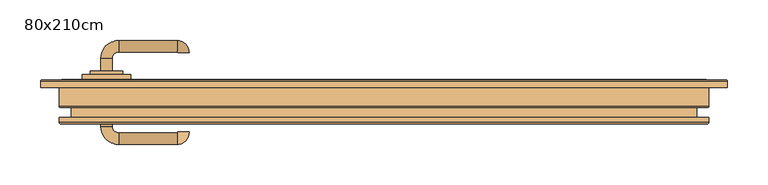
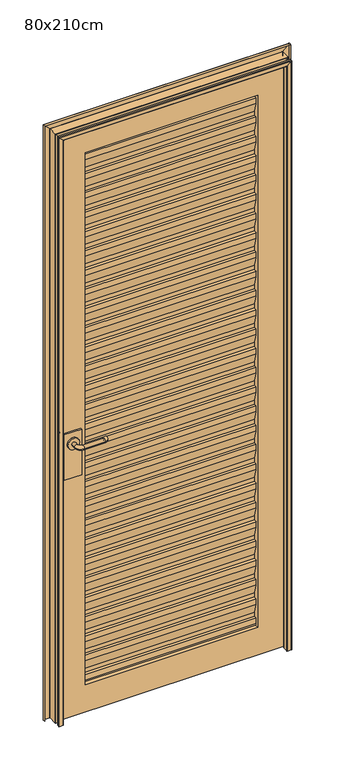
"""IFC4 building model written with IfcOpenShell, lengths in millimetres: door geometry, FamiliaBIM Porta de abrir Veneziana Metalica MCMV 2023 : 80x210cm."""

from ifc_helpers import new_model, si_unit, point, frame, frame_2d, origin, place, context, project, spatial, polyline, circle_curve, ellipse_curve, trimmed, segment, composite_curve, outline, extrude, source, transform, mapped, element, save
from ifc_brep_helpers import plane_surface, cylinder_surface, revolved_surface, advanced_brep


def door_80x210cm_6cad2534(model_context):
    return source(origin(), model_context, "Body", "SolidModel", [
        extrude(outline(polyline([(88.9, 180.8599451), (98.9, 180.8599451), (98.9, 195.8599451), (88.9, 230.8599451), (88.9, 250.8599451), (98.9, 250.8599451), (98.9, 265.8599451), (88.9, 300.8599451), (88.9, 320.8599451), (98.9, 320.8599451), (98.9, 335.8599451), (88.9, 370.8599451), (88.9, 390.8599451), (98.9, 390.8599451), (98.9, 405.8599451), (88.9, 440.8599451), (88.9, 460.8599451), (98.9, 460.8599451), (98.9, 475.8599451), (88.9, 510.8599451), (88.9, 530.8599451), (98.9, 530.8599451), (98.9, 545.8599451), (88.9, 580.8599451), (88.9, 600.8599451), (98.9, 600.8599451), (98.9, 615.8599451), (88.9, 650.8599451), (88.9, 670.8599451), (98.9, 670.8599451), (98.9, 685.8599451), (88.9, 720.8599451), (88.9, 740.8599451), (98.9, 740.8599451), (98.9, 755.8599451), (88.9, 790.8599451), (88.9, 810.8599451), (98.9, 810.8599451), (98.9, 825.8599451), (88.9, 860.8599451), (88.9, 880.8599451), (98.9, 880.8599451), (98.9, 895.8599451), (88.9, 930.8599451), (88.9, 950.8599451), (98.9, 950.8599451), (98.9, 965.8599451), (88.9, 1000.8599451), (88.9, 1020.8599451), (98.9, 1020.8599451), (98.9, 1035.8599451), (88.9, 1070.8599451), (88.9, 1090.8599451), (98.9, 1090.8599451), (98.9, 1105.8599451), (88.9, 1140.8599451), (88.9, 1160.8599451), (98.9, 1160.8599451), (98.9, 1175.8599451), (88.9, 1210.8599451), (88.9, 1230.8599451), (98.9, 1230.8599451), (98.9, 1245.8599451), (88.9, 1280.8599451), (88.9, 1300.8599451), (98.9, 1300.8599451), (98.9, 1315.8599451), (88.9, 1350.8599451), (88.9, 1370.8599451), (98.9, 1370.8599451), (98.9, 1385.8599451), (88.9, 1420.8599451), (88.9, 1440.8599451), (98.9, 1440.8599451), (98.9, 1455.8599451), (88.9, 1490.8599451), (88.9, 1510.8599451), (98.9, 1510.8599451), (98.9, 1525.8599451), (88.9, 1560.8599451), (88.9, 1580.8599451), (98.9, 1580.8599451), (98.9, 1595.8599451), (88.9, 1630.8599451), (88.9, 1650.8599451), (98.9, 1650.8599451), (98.9, 1665.8599451), (88.9, 1700.8599451), (88.9, 1720.8599451), (98.9, 1720.8599451), (98.9, 1735.8599451), (88.9, 1770.8599451), (88.9, 1790.8599451), (98.9, 1790.8599451), (98.9, 1805.8599451), (88.9, 1840.8599451), (88.9, 1860.8599451), (98.9, 1860.8599451), (98.9, 1875.8599451), (88.9, 1910.8599451), (88.9, 1930.8599451), (98.9, 1930.8599451), (98.9, 1945.8599451), (88.9, 1980.8599451), (88.9, 2000.8599451), (98.9, 2000.8599451), (98.9, 2015.8599451), (88.9, 2050.8599451), (88.9, 2070.8599451), (98.9, 2070.8599451), (98.9, 2085.8599451), (99.9, 2086.0), (99.9, 2069.8599451), (89.9, 2069.8599451), (89.9, 2051.0), (99.9, 2016.0), (99.9, 1999.8599451), (89.9, 1999.8599451), (89.9, 1981.0), (99.9, 1946.0), (99.9, 1929.8599451), (89.9, 1929.8599451), (89.9, 1911.0), (99.9, 1876.0), (99.9, 1859.8599451), (89.9, 1859.8599451), (89.9, 1841.0), (99.9, 1806.0), (99.9, 1789.8599451), (89.9, 1789.8599451), (89.9, 1771.0), (99.9, 1736.0), (99.9, 1719.8599451), (89.9, 1719.8599451), (89.9, 1701.0), (99.9, 1666.0), (99.9, 1649.8599451), (89.9, 1649.8599451), (89.9, 1631.0), (99.9, 1596.0), (99.9, 1579.8599451), (89.9, 1579.8599451), (89.9, 1561.0), (99.9, 1526.0), (99.9, 1509.8599451), (89.9, 1509.8599451), (89.9, 1491.0), (99.9, 1456.0), (99.9, 1439.8599451), (89.9, 1439.8599451), (89.9, 1421.0), (99.9, 1386.0), (99.9, 1369.8599451), (89.9, 1369.8599451), (89.9, 1351.0), (99.9, 1316.0), (99.9, 1299.8599451), (89.9, 1299.8599451), (89.9, 1281.0), (99.9, 1246.0), (99.9, 1229.8599451), (89.9, 1229.8599451), (89.9, 1211.0), (99.9, 1176.0), (99.9, 1159.8599451), (89.9, 1159.8599451), (89.9, 1141.0), (99.9, 1106.0), (99.9, 1089.8599451), (89.9, 1089.8599451), (89.9, 1071.0), (99.9, 1036.0), (99.9, 1019.8599451), (89.9, 1019.8599451), (89.9, 1001.0), (99.9, 966.0), (99.9, 949.8599451), (89.9, 949.8599451), (89.9, 931.0), (99.9, 896.0), (99.9, 879.8599451), (89.9, 879.8599451), (89.9, 861.0), (99.9, 826.0), (99.9, 809.8599451), (89.9, 809.8599451), (89.9, 791.0), (99.9, 756.0), (99.9, 739.8599451), (89.9, 739.8599451), (89.9, 721.0), (99.9, 686.0), (99.9, 669.8599451), (89.9, 669.8599451), (89.9, 651.0), (99.9, 616.0), (99.9, 599.8599451), (89.9, 599.8599451), (89.9, 581.0), (99.9, 546.0), (99.9, 529.8599451), (89.9, 529.8599451), (89.9, 511.0), (99.9, 476.0), (99.9, 459.8599451), (89.9, 459.8599451), (89.9, 441.0), (99.9, 406.0), (99.9, 389.8599451), (89.9, 389.8599451), (89.9, 371.0), (99.9, 336.0), (99.9, 319.8599451), (89.9, 319.8599451), (89.9, 301.0), (99.9, 266.0), (99.9, 249.8599451), (89.9, 249.8599451), (89.9, 231.0), (99.9, 196.0), (99.9, 179.8599451), (89.9, 179.8599451), (89.9, 161.0), (92.1971586, 152.9599451), (91.1571429, 152.9599451), (88.9, 160.8599451), (88.9, 180.8599451)])), frame((-397.0, 0.0, 0.0), z_axis=(1.0, 0.0, 0.0), x_axis=(0.0, 1.0, 0.0)), (0.0, 0.0, 1.0), 594.0),
        extrude(outline(composite_curve([segment(trimmed(circle_curve(frame_2d((1050.0, -442.0)), 20.0), [point((1050.0, -462.0))], [point((1050.0, -422.0))], False, "CARTESIAN"), True, "CONTINUOUS"), segment(trimmed(circle_curve(frame_2d((1050.0, -442.0)), 20.0), [point((1050.0, -422.0))], [point((1050.0, -462.0))], False, "CARTESIAN"), True, "CONTINUOUS")], self_intersect=False)), frame((0.0, 67.4070105, 0.0), z_axis=(0.0, 1.0, 0.0), x_axis=(0.0, 0.0, 1.0)), (0.0, 0.0, 1.0), 4.5929895),
        advanced_brep(
        [(-435.0, 67.4070105, 1050.0), (-449.0, 67.4070105, 1050.0), (-449.0, 52.0, 1050.0), (-435.0, 52.0, 1050.0), (-427.0, 30.0, 1050.0), (-427.0, 44.0, 1050.0), (-355.0, 30.0, 1050.0), (-355.0, 44.0, 1050.0), (-354.0, 45.0, 1050.0), (-340.0, 45.0, 1050.0)],
        [
            (0, 1, circle_curve(frame((-442.0, 67.4070105, 1050.0), z_axis=(0.0, 1.0, 0.0), x_axis=(-1.0, 0.0, 0.0)), 7.0)),
            (1, 0, circle_curve(frame((-442.0, 67.4070105, 1050.0), z_axis=(0.0, 1.0, 0.0), x_axis=(-1.0, 0.0, 0.0)), 7.0)),
            (1, 2),
            (2, 3, circle_curve(frame((-442.0, 52.0, 1050.0), z_axis=(0.0, 1.0, 0.0), x_axis=(-1.0, 0.0, 0.0)), 7.0)),
            (3, 0),
            (3, 2, circle_curve(frame((-442.0, 52.0, 1050.0), z_axis=(0.0, 1.0, 0.0), x_axis=(-1.0, 0.0, 0.0)), 7.0)),
            (4, 5, circle_curve(frame((-427.0, 37.0, 1050.0), z_axis=(-1.0, 0.0, 0.0), x_axis=(0.0, -1.0, 0.0)), 7.0)),
            (5, 3, circle_curve(frame((-427.0, 52.0, 1050.0), z_axis=(0.0, 0.0, -1.0), x_axis=(-1.0, 0.0, 0.0)), 8.0)),
            (2, 4, circle_curve(frame((-427.0, 52.0, 1050.0), z_axis=(0.0, 0.0, 1.0), x_axis=(-1.0, 0.0, 0.0)), 22.0)),
            (5, 4, circle_curve(frame((-427.0, 37.0, 1050.0), z_axis=(-1.0, 0.0, 0.0), x_axis=(0.0, -1.0, 0.0)), 7.0)),
            (4, 6),
            (6, 7, circle_curve(frame((-355.0, 37.0, 1050.0), z_axis=(-1.0, 0.0, 0.0), x_axis=(0.0, -1.0, 0.0)), 7.0)),
            (7, 5),
            (7, 6, circle_curve(frame((-355.0, 37.0, 1050.0), z_axis=(-1.0, 0.0, 0.0), x_axis=(0.0, -1.0, 0.0)), 7.0)),
            (8, 9, circle_curve(frame((-347.0, 45.0, 1050.0), z_axis=(0.0, 1.0, 0.0), x_axis=(1.0, 0.0, 0.0)), 7.0)),
            (9, 8, circle_curve(frame((-347.0, 45.0, 1050.0), z_axis=(0.0, 1.0, 0.0), x_axis=(1.0, 0.0, 0.0)), 7.0)),
            (8, 7, circle_curve(frame((-355.0, 45.0, 1050.0), z_axis=(0.0, 0.0, -1.0), x_axis=(0.0, -1.0, 0.0)), 1.0)),
            (6, 9, circle_curve(frame((-355.0, 45.0, 1050.0), z_axis=(0.0, 0.0, 1.0), x_axis=(0.0, -1.0, 0.0)), 15.0)),
        ],
        [
            plane_surface(frame((-442.0, 67.4070105, 1050.0), z_axis=(0.0, 1.0, 0.0), x_axis=(0.0, 0.0, 1.0))),
            cylinder_surface(frame((-442.0, 67.4070105, 1050.0), z_axis=(0.0, 1.0, 0.0), x_axis=(-1.0, 0.0, 0.0)), 7.0),
            revolved_surface(trimmed(ellipse_curve(frame((-442.0, 52.0, 1050.0), z_axis=(0.0, -1.0, 0.0), x_axis=(-1.0, 0.0, 0.0)), 7.0, 7.0), [point((-435.0, 52.0, 1050.0))], [point((-449.0, 52.0, 1050.0))], True, "CARTESIAN"), (-427.0, 52.0, 1050.0), (0.0, 0.0, -1.0)),
            revolved_surface(trimmed(ellipse_curve(frame((-442.0, 52.0, 1050.0), z_axis=(0.0, -1.0, 0.0), x_axis=(-1.0, 0.0, 0.0)), 7.0, 7.0), [point((-449.0, 52.0, 1050.0))], [point((-435.0, 52.0, 1050.0))], True, "CARTESIAN"), (-427.0, 52.0, 1050.0), (0.0, 0.0, -1.0)),
            cylinder_surface(frame((-427.0, 37.0, 1050.0), z_axis=(-1.0, 0.0, 0.0), x_axis=(0.0, -1.0, 0.0)), 7.0),
            plane_surface(frame((-347.0, 45.0, 1050.0), z_axis=(0.0, 1.0, 0.0), x_axis=(0.0, 0.0, 1.0))),
            revolved_surface(trimmed(ellipse_curve(frame((-355.0, 37.0, 1050.0), z_axis=(1.0, 0.0, 0.0), x_axis=(0.0, -1.0, 0.0)), 7.0, 7.0), [point((-355.0, 44.0, 1050.0))], [point((-355.0, 30.0, 1050.0))], True, "CARTESIAN"), (-355.0, 45.0, 1050.0), (0.0, 0.0, -1.0)),
            revolved_surface(trimmed(ellipse_curve(frame((-355.0, 37.0, 1050.0), z_axis=(1.0, 0.0, 0.0), x_axis=(0.0, -1.0, 0.0)), 7.0, 7.0), [point((-355.0, 30.0, 1050.0))], [point((-355.0, 44.0, 1050.0))], True, "CARTESIAN"), (-355.0, 45.0, 1050.0), (0.0, 0.0, -1.0)),
        ],
        [
            (0, [[1, 2]]),
            (1, [[3, 4, 5, -2]]),
            (1, [[-5, 6, -3, -1]]),
            (2, [[7, 8, -4, 9]]),
            (3, [[10, -9, -6, -8]]),
            (4, [[11, 12, 13, -7]]),
            (4, [[-13, 14, -11, -10]]),
            (5, [[15, 16]]),
            (6, [[-15, 17, -12, 18]]),
            (7, [[-16, -18, -14, -17]]),
        ],
    ),
        extrude(outline(polyline([(-412.0, 78.0), (-412.0, 72.0), (-472.0, 72.0), (-472.0, 78.0), (-412.0, 78.0)])), frame((0.0, 0.0, 925.0), z_axis=(0.0, 0.0, 1.0), x_axis=(1.0, 0.0, 0.0)), (0.0, 0.0, 1.0), 165.0),
        extrude(outline(composite_curve([segment(trimmed(circle_curve(frame_2d((1050.0, -442.0)), 20.0), [point((1050.0, -462.0))], [point((1050.0, -422.0))], False, "CARTESIAN"), True, "CONTINUOUS"), segment(trimmed(circle_curve(frame_2d((1050.0, -442.0)), 20.0), [point((1050.0, -422.0))], [point((1050.0, -462.0))], False, "CARTESIAN"), True, "CONTINUOUS")], self_intersect=False)), frame((0.0, 116.0, 0.0), z_axis=(0.0, 1.0, 0.0), x_axis=(0.0, 0.0, 1.0)), (0.0, 0.0, 1.0), 4.5929895),
        advanced_brep(
        [(-435.0, 120.5929895, 1050.0), (-449.0, 120.5929895, 1050.0), (-435.0, 136.0, 1050.0), (-449.0, 136.0, 1050.0), (-427.0, 158.0, 1050.0), (-427.0, 144.0, 1050.0), (-355.0, 144.0, 1050.0), (-355.0, 158.0, 1050.0), (-354.0, 143.0, 1050.0), (-340.0, 143.0, 1050.0)],
        [
            (0, 1, circle_curve(frame((-442.0, 120.5929895, 1050.0), z_axis=(0.0, -1.0, 0.0), x_axis=(-1.0, 0.0, 0.0)), 7.0)),
            (1, 0, circle_curve(frame((-442.0, 120.5929895, 1050.0), z_axis=(0.0, -1.0, 0.0), x_axis=(-1.0, 0.0, 0.0)), 7.0)),
            (0, 2),
            (2, 3, circle_curve(frame((-442.0, 136.0, 1050.0), z_axis=(0.0, -1.0, 0.0), x_axis=(-1.0, 0.0, 0.0)), 7.0)),
            (3, 1),
            (3, 2, circle_curve(frame((-442.0, 136.0, 1050.0), z_axis=(0.0, -1.0, 0.0), x_axis=(-1.0, 0.0, 0.0)), 7.0)),
            (4, 3, circle_curve(frame((-427.0, 136.0, 1050.0), z_axis=(0.0, 0.0, 1.0), x_axis=(-1.0, 0.0, 0.0)), 22.0)),
            (2, 5, circle_curve(frame((-427.0, 136.0, 1050.0), z_axis=(0.0, 0.0, -1.0), x_axis=(-1.0, 0.0, 0.0)), 8.0)),
            (5, 4, circle_curve(frame((-427.0, 151.0, 1050.0), z_axis=(-1.0, 0.0, 0.0), x_axis=(0.0, 1.0, 0.0)), 7.0)),
            (4, 5, circle_curve(frame((-427.0, 151.0, 1050.0), z_axis=(-1.0, 0.0, 0.0), x_axis=(0.0, 1.0, 0.0)), 7.0)),
            (5, 6),
            (6, 7, circle_curve(frame((-355.0, 151.0, 1050.0), z_axis=(-1.0, 0.0, 0.0), x_axis=(0.0, 1.0, 0.0)), 7.0)),
            (7, 4),
            (7, 6, circle_curve(frame((-355.0, 151.0, 1050.0), z_axis=(-1.0, 0.0, 0.0), x_axis=(0.0, 1.0, 0.0)), 7.0)),
            (8, 9, circle_curve(frame((-347.0, 143.0, 1050.0), z_axis=(0.0, -1.0, 0.0), x_axis=(1.0, 0.0, 0.0)), 7.0)),
            (9, 8, circle_curve(frame((-347.0, 143.0, 1050.0), z_axis=(0.0, -1.0, 0.0), x_axis=(1.0, 0.0, 0.0)), 7.0)),
            (9, 7, circle_curve(frame((-355.0, 143.0, 1050.0), z_axis=(0.0, 0.0, 1.0), x_axis=(0.0, 1.0, 0.0)), 15.0)),
            (6, 8, circle_curve(frame((-355.0, 143.0, 1050.0), z_axis=(0.0, 0.0, -1.0), x_axis=(0.0, 1.0, 0.0)), 1.0)),
        ],
        [
            plane_surface(frame((-442.0, 120.5929895, 1050.0), z_axis=(0.0, -1.0, 0.0), x_axis=(0.0, 0.0, 1.0))),
            cylinder_surface(frame((-442.0, 120.5929895, 1050.0), z_axis=(0.0, -1.0, 0.0), x_axis=(-1.0, 0.0, 0.0)), 7.0),
            revolved_surface(trimmed(ellipse_curve(frame((-442.0, 136.0, 1050.0), z_axis=(0.0, -1.0, 0.0), x_axis=(-1.0, 0.0, 0.0)), 7.0, 7.0), [point((-435.0, 136.0, 1050.0))], [point((-449.0, 136.0, 1050.0))], True, "CARTESIAN"), (-427.0, 136.0, 1050.0), (0.0, 0.0, -1.0)),
            revolved_surface(trimmed(ellipse_curve(frame((-442.0, 136.0, 1050.0), z_axis=(0.0, -1.0, 0.0), x_axis=(-1.0, 0.0, 0.0)), 7.0, 7.0), [point((-449.0, 136.0, 1050.0))], [point((-435.0, 136.0, 1050.0))], True, "CARTESIAN"), (-427.0, 136.0, 1050.0), (0.0, 0.0, -1.0)),
            cylinder_surface(frame((-427.0, 151.0, 1050.0), z_axis=(-1.0, 0.0, 0.0), x_axis=(0.0, 1.0, 0.0)), 7.0),
            plane_surface(frame((-347.0, 143.0, 1050.0), z_axis=(0.0, -1.0, 0.0), x_axis=(0.0, 0.0, 1.0))),
            revolved_surface(trimmed(ellipse_curve(frame((-355.0, 151.0, 1050.0), z_axis=(-1.0, 0.0, 0.0), x_axis=(0.0, 1.0, 0.0)), 7.0, 7.0), [point((-355.0, 144.0, 1050.0))], [point((-355.0, 158.0, 1050.0))], True, "CARTESIAN"), (-355.0, 143.0, 1050.0), (0.0, 0.0, -1.0)),
            revolved_surface(trimmed(ellipse_curve(frame((-355.0, 151.0, 1050.0), z_axis=(-1.0, 0.0, 0.0), x_axis=(0.0, 1.0, 0.0)), 7.0, 7.0), [point((-355.0, 158.0, 1050.0))], [point((-355.0, 144.0, 1050.0))], True, "CARTESIAN"), (-355.0, 143.0, 1050.0), (0.0, 0.0, -1.0)),
        ],
        [
            (0, [[1, 2]]),
            (1, [[-1, 3, 4, 5]]),
            (1, [[-2, -5, 6, -3]]),
            (2, [[7, -4, 8, 9]]),
            (3, [[-8, -6, -7, 10]]),
            (4, [[-9, 11, 12, 13]]),
            (4, [[-10, -13, 14, -11]]),
            (5, [[15, 16]]),
            (6, [[17, -12, 18, -16]]),
            (7, [[-18, -14, -17, -15]]),
        ],
    ),
        extrude(outline(polyline([(-412.0, 110.0), (-472.0, 110.0), (-472.0, 116.0), (-412.0, 116.0), (-412.0, 110.0)])), frame((0.0, 0.0, 925.0), z_axis=(0.0, 0.0, 1.0), x_axis=(1.0, 0.0, 0.0)), (0.0, 0.0, 1.0), 165.0),
        extrude(outline(polyline([(2186.0, -497.0), (53.0, -497.0), (53.0, 297.0), (2186.0, 297.0), (2186.0, -497.0)]), holes=[polyline([(2086.0, -397.0), (2086.0, 197.0), (153.0, 197.0), (153.0, -397.0), (2086.0, -397.0)])]), frame((0.0, 78.0, 0.0), z_axis=(0.0, 1.0, 0.0), x_axis=(0.0, 0.0, 1.0)), (0.0, 0.0, 1.0), 32.0),
        advanced_brep(
        [(-485.5, 55.0, 50.0), (-498.5, 55.0, 50.0), (-500.0, 56.5, 50.0), (-500.0, 63.0, 50.0), (-499.0, 63.0, 50.0), (-499.0, 56.5, 50.0), (-498.5, 56.0, 50.0), (-485.5, 56.0, 50.0), (-485.0, 56.5, 50.0), (-485.0, 74.5, 50.0), (-485.5, 75.0, 50.0), (-498.55, 75.0, 50.0), (-500.05, 76.5, 50.0), (-500.05, 107.5, 50.0), (-500.55, 108.0, 50.0), (-521.55, 108.0, 50.0), (-522.05, 107.5, 50.0), (-522.05, 100.0, 50.0), (-523.05, 100.0, 50.0), (-523.05, 107.5, 50.0), (-521.55, 109.0, 50.0), (-500.55, 109.0, 50.0), (-499.05, 107.5, 50.0), (-499.05, 76.5, 50.0), (-498.55, 76.0, 50.0), (-485.5, 76.0, 50.0), (-484.0, 74.5, 50.0), (-484.0, 56.5, 50.0), (-485.5, 55.0, 2175.5), (-498.5, 55.0, 2188.5), (-500.0, 56.5, 2190.0), (-500.0, 63.0, 2190.0), (-499.0, 63.0, 2189.0), (-499.0, 56.5, 2189.0), (-498.5, 56.0, 2188.5), (-485.5, 56.0, 2175.5), (-485.0, 56.5, 2175.0), (-485.0, 74.5, 2175.0), (-485.5, 75.0, 2175.5), (-498.55, 75.0, 2188.55), (-500.05, 76.5, 2190.05), (-500.05, 107.5, 2190.05), (-500.55, 108.0, 2190.55), (-521.55, 108.0, 2211.55), (-522.05, 107.5, 2212.05), (-522.05, 100.0, 2212.05), (-523.05, 100.0, 2213.05), (-523.05, 107.5, 2213.05), (-521.55, 109.0, 2211.55), (-500.55, 109.0, 2190.55), (-499.05, 107.5, 2189.05), (-499.05, 76.5, 2189.05), (-498.55, 76.0, 2188.55), (-485.5, 76.0, 2175.5), (-484.0, 74.5, 2174.0), (-484.0, 56.5, 2174.0), (285.5, 55.0, 50.0), (284.0, 56.5, 50.0), (284.0, 74.5, 50.0), (285.5, 76.0, 50.0), (298.55, 76.0, 50.0), (299.05, 76.5, 50.0), (299.05, 107.5, 50.0), (300.55, 109.0, 50.0), (321.55, 109.0, 50.0), (323.05, 107.5, 50.0), (323.05, 100.0, 50.0), (322.05, 100.0, 50.0), (322.05, 107.5, 50.0), (321.55, 108.0, 50.0), (300.55, 108.0, 50.0), (300.05, 107.5, 50.0), (300.05, 76.5, 50.0), (298.55, 75.0, 50.0), (285.5, 75.0, 50.0), (285.0, 74.5, 50.0), (285.0, 56.5, 50.0), (285.5, 56.0, 50.0), (298.5, 56.0, 50.0), (299.0, 56.5, 50.0), (299.0, 63.0, 50.0), (300.0, 63.0, 50.0), (300.0, 56.5, 50.0), (298.5, 55.0, 50.0), (285.5, 55.0, 2175.5), (284.0, 56.5, 2174.0), (284.0, 74.5, 2174.0), (285.5, 76.0, 2175.5), (298.55, 76.0, 2188.55), (299.05, 76.5, 2189.05), (299.05, 107.5, 2189.05), (300.55, 109.0, 2190.55), (321.55, 109.0, 2211.55), (323.05, 107.5, 2213.05), (323.05, 100.0, 2213.05), (322.05, 100.0, 2212.05), (322.05, 107.5, 2212.05), (321.55, 108.0, 2211.55), (300.55, 108.0, 2190.55), (300.05, 107.5, 2190.05), (300.05, 76.5, 2190.05), (298.55, 75.0, 2188.55), (285.5, 75.0, 2175.5), (285.0, 74.5, 2175.0), (285.0, 56.5, 2175.0), (285.5, 56.0, 2175.5), (298.5, 56.0, 2188.5), (299.0, 56.5, 2189.0), (299.0, 63.0, 2189.0), (300.0, 63.0, 2190.0), (300.0, 56.5, 2190.0), (298.5, 55.0, 2188.5)],
        [
            (0, 1),
            (1, 2, circle_curve(frame((-498.5, 56.5, 50.0), z_axis=(0.0, 0.0, -1.0), x_axis=(1.0, 0.0, 0.0)), 1.5)),
            (2, 3),
            (3, 4),
            (4, 5),
            (5, 6, circle_curve(frame((-498.5, 56.5, 50.0), z_axis=(0.0, 0.0, 1.0), x_axis=(1.0, 0.0, 0.0)), 0.5)),
            (6, 7),
            (7, 8, circle_curve(frame((-485.5, 56.5, 50.0), z_axis=(0.0, 0.0, 1.0), x_axis=(1.0, 0.0, 0.0)), 0.5)),
            (8, 9),
            (9, 10, circle_curve(frame((-485.5, 74.5, 50.0), z_axis=(0.0, 0.0, 1.0), x_axis=(1.0, 0.0, 0.0)), 0.5)),
            (10, 11),
            (11, 12, circle_curve(frame((-498.55, 76.5, 50.0), z_axis=(0.0, 0.0, -1.0), x_axis=(1.0, 0.0, 0.0)), 1.5)),
            (12, 13),
            (13, 14, circle_curve(frame((-500.55, 107.5, 50.0), z_axis=(0.0, 0.0, 1.0), x_axis=(1.0, 0.0, 0.0)), 0.5)),
            (14, 15),
            (15, 16, circle_curve(frame((-521.55, 107.5, 50.0), z_axis=(0.0, 0.0, 1.0), x_axis=(1.0, 0.0, 0.0)), 0.5)),
            (16, 17),
            (17, 18),
            (18, 19),
            (19, 20, circle_curve(frame((-521.55, 107.5, 50.0), z_axis=(0.0, 0.0, -1.0), x_axis=(1.0, 0.0, 0.0)), 1.5)),
            (20, 21),
            (21, 22, circle_curve(frame((-500.55, 107.5, 50.0), z_axis=(0.0, 0.0, -1.0), x_axis=(1.0, 0.0, 0.0)), 1.5)),
            (22, 23),
            (23, 24, circle_curve(frame((-498.55, 76.5, 50.0), z_axis=(0.0, 0.0, 1.0), x_axis=(1.0, 0.0, 0.0)), 0.5)),
            (24, 25),
            (25, 26, circle_curve(frame((-485.5, 74.5, 50.0), z_axis=(0.0, 0.0, -1.0), x_axis=(1.0, 0.0, 0.0)), 1.5)),
            (26, 27),
            (27, 0, circle_curve(frame((-485.5, 56.5, 50.0), z_axis=(0.0, 0.0, -1.0), x_axis=(1.0, 0.0, 0.0)), 1.5)),
            (0, 28),
            (28, 29),
            (29, 1),
            (29, 30, ellipse_curve(frame((-498.5, 56.5, 2188.5), z_axis=(-0.7071067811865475, 0.0, -0.7071067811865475), x_axis=(0.7071067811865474, 0.0, -0.7071067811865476)), 2.1213203, 1.5)),
            (30, 2),
            (30, 31),
            (31, 3),
            (31, 32),
            (32, 4),
            (32, 33),
            (33, 5),
            (33, 34, ellipse_curve(frame((-498.5, 56.5, 2188.5), z_axis=(0.7071067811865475, 0.0, 0.7071067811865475), x_axis=(-0.7071067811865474, 0.0, 0.7071067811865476)), 0.7071068, 0.5)),
            (34, 6),
            (34, 35),
            (35, 7),
            (35, 36, ellipse_curve(frame((-485.5, 56.5, 2175.5), z_axis=(0.7071067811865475, 0.0, 0.7071067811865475), x_axis=(-0.7071067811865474, 0.0, 0.7071067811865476)), 0.7071068, 0.5)),
            (36, 8),
            (36, 37),
            (37, 9),
            (37, 38, ellipse_curve(frame((-485.5, 74.5, 2175.5), z_axis=(0.7071067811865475, 0.0, 0.7071067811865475), x_axis=(-0.7071067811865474, 0.0, 0.7071067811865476)), 0.7071068, 0.5)),
            (38, 10),
            (38, 39),
            (39, 11),
            (39, 40, ellipse_curve(frame((-498.55, 76.5, 2188.55), z_axis=(-0.7071067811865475, 0.0, -0.7071067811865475), x_axis=(0.7071067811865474, 0.0, -0.7071067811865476)), 2.1213203, 1.5)),
            (40, 12),
            (40, 41),
            (41, 13),
            (41, 42, ellipse_curve(frame((-500.55, 107.5, 2190.55), z_axis=(0.7071067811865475, 0.0, 0.7071067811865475), x_axis=(-0.7071067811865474, 0.0, 0.7071067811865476)), 0.7071068, 0.5)),
            (42, 14),
            (42, 43),
            (43, 15),
            (43, 44, ellipse_curve(frame((-521.55, 107.5, 2211.55), z_axis=(0.7071067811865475, 0.0, 0.7071067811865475), x_axis=(-0.7071067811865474, 0.0, 0.7071067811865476)), 0.7071068, 0.5)),
            (44, 16),
            (44, 45),
            (45, 17),
            (45, 46),
            (46, 18),
            (46, 47),
            (47, 19),
            (47, 48, ellipse_curve(frame((-521.55, 107.5, 2211.55), z_axis=(-0.7071067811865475, 0.0, -0.7071067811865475), x_axis=(0.7071067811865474, 0.0, -0.7071067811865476)), 2.1213203, 1.5)),
            (48, 20),
            (48, 49),
            (49, 21),
            (49, 50, ellipse_curve(frame((-500.55, 107.5, 2190.55), z_axis=(-0.7071067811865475, 0.0, -0.7071067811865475), x_axis=(0.7071067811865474, 0.0, -0.7071067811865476)), 2.1213203, 1.5)),
            (50, 22),
            (50, 51),
            (51, 23),
            (51, 52, ellipse_curve(frame((-498.55, 76.5, 2188.55), z_axis=(0.7071067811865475, 0.0, 0.7071067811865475), x_axis=(-0.7071067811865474, 0.0, 0.7071067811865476)), 0.7071068, 0.5)),
            (52, 24),
            (52, 53),
            (53, 25),
            (53, 54, ellipse_curve(frame((-485.5, 74.5, 2175.5), z_axis=(-0.7071067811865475, 0.0, -0.7071067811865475), x_axis=(0.7071067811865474, 0.0, -0.7071067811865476)), 2.1213203, 1.5)),
            (54, 26),
            (54, 55),
            (55, 27),
            (55, 28, ellipse_curve(frame((-485.5, 56.5, 2175.5), z_axis=(-0.7071067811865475, 0.0, -0.7071067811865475), x_axis=(0.7071067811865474, 0.0, -0.7071067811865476)), 2.1213203, 1.5)),
            (56, 57, circle_curve(frame((285.5, 56.5, 50.0), z_axis=(0.0, 0.0, -1.0), x_axis=(-1.0, 0.0, 0.0)), 1.5)),
            (57, 58),
            (58, 59, circle_curve(frame((285.5, 74.5, 50.0), z_axis=(0.0, 0.0, -1.0), x_axis=(-1.0, 0.0, 0.0)), 1.5)),
            (59, 60),
            (60, 61, circle_curve(frame((298.55, 76.5, 50.0), z_axis=(0.0, 0.0, 1.0), x_axis=(-1.0, 0.0, 0.0)), 0.5)),
            (61, 62),
            (62, 63, circle_curve(frame((300.55, 107.5, 50.0), z_axis=(0.0, 0.0, -1.0), x_axis=(-1.0, 0.0, 0.0)), 1.5)),
            (63, 64),
            (64, 65, circle_curve(frame((321.55, 107.5, 50.0), z_axis=(0.0, 0.0, -1.0), x_axis=(-1.0, 0.0, 0.0)), 1.5)),
            (65, 66),
            (66, 67),
            (67, 68),
            (68, 69, circle_curve(frame((321.55, 107.5, 50.0), z_axis=(0.0, 0.0, 1.0), x_axis=(-1.0, 0.0, 0.0)), 0.5)),
            (69, 70),
            (70, 71, circle_curve(frame((300.55, 107.5, 50.0), z_axis=(0.0, 0.0, 1.0), x_axis=(-1.0, 0.0, 0.0)), 0.5)),
            (71, 72),
            (72, 73, circle_curve(frame((298.55, 76.5, 50.0), z_axis=(0.0, 0.0, -1.0), x_axis=(-1.0, 0.0, 0.0)), 1.5)),
            (73, 74),
            (74, 75, circle_curve(frame((285.5, 74.5, 50.0), z_axis=(0.0, 0.0, 1.0), x_axis=(-1.0, 0.0, 0.0)), 0.5)),
            (75, 76),
            (76, 77, circle_curve(frame((285.5, 56.5, 50.0), z_axis=(0.0, 0.0, 1.0), x_axis=(-1.0, 0.0, 0.0)), 0.5)),
            (77, 78),
            (78, 79, circle_curve(frame((298.5, 56.5, 50.0), z_axis=(0.0, 0.0, 1.0), x_axis=(-1.0, 0.0, 0.0)), 0.5)),
            (79, 80),
            (80, 81),
            (81, 82),
            (82, 83, circle_curve(frame((298.5, 56.5, 50.0), z_axis=(0.0, 0.0, -1.0), x_axis=(-1.0, 0.0, 0.0)), 1.5)),
            (83, 56),
            (84, 85, ellipse_curve(frame((285.5, 56.5, 2175.5), z_axis=(0.7071067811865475, 0.0, -0.7071067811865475), x_axis=(0.7071067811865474, 0.0, 0.7071067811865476)), 2.1213203, 1.5)),
            (85, 57),
            (56, 84),
            (85, 86),
            (86, 58),
            (86, 87, ellipse_curve(frame((285.5, 74.5, 2175.5), z_axis=(0.7071067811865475, 0.0, -0.7071067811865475), x_axis=(0.7071067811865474, 0.0, 0.7071067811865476)), 2.1213203, 1.5)),
            (87, 59),
            (87, 88),
            (88, 60),
            (88, 89, ellipse_curve(frame((298.55, 76.5, 2188.55), z_axis=(-0.7071067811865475, 0.0, 0.7071067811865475), x_axis=(-0.7071067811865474, 0.0, -0.7071067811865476)), 0.7071068, 0.5)),
            (89, 61),
            (89, 90),
            (90, 62),
            (90, 91, ellipse_curve(frame((300.55, 107.5, 2190.55), z_axis=(0.7071067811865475, 0.0, -0.7071067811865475), x_axis=(0.7071067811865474, 0.0, 0.7071067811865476)), 2.1213203, 1.5)),
            (91, 63),
            (91, 92),
            (92, 64),
            (92, 93, ellipse_curve(frame((321.55, 107.5, 2211.55), z_axis=(0.7071067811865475, 0.0, -0.7071067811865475), x_axis=(0.7071067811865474, 0.0, 0.7071067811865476)), 2.1213203, 1.5)),
            (93, 65),
            (93, 94),
            (94, 66),
            (94, 95),
            (95, 67),
            (95, 96),
            (96, 68),
            (96, 97, ellipse_curve(frame((321.55, 107.5, 2211.55), z_axis=(-0.7071067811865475, 0.0, 0.7071067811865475), x_axis=(-0.7071067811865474, 0.0, -0.7071067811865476)), 0.7071068, 0.5)),
            (97, 69),
            (97, 98),
            (98, 70),
            (98, 99, ellipse_curve(frame((300.55, 107.5, 2190.55), z_axis=(-0.7071067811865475, 0.0, 0.7071067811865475), x_axis=(-0.7071067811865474, 0.0, -0.7071067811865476)), 0.7071068, 0.5)),
            (99, 71),
            (99, 100),
            (100, 72),
            (100, 101, ellipse_curve(frame((298.55, 76.5, 2188.55), z_axis=(0.7071067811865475, 0.0, -0.7071067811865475), x_axis=(0.7071067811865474, 0.0, 0.7071067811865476)), 2.1213203, 1.5)),
            (101, 73),
            (101, 102),
            (102, 74),
            (102, 103, ellipse_curve(frame((285.5, 74.5, 2175.5), z_axis=(-0.7071067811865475, 0.0, 0.7071067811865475), x_axis=(-0.7071067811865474, 0.0, -0.7071067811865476)), 0.7071068, 0.5)),
            (103, 75),
            (103, 104),
            (104, 76),
            (104, 105, ellipse_curve(frame((285.5, 56.5, 2175.5), z_axis=(-0.7071067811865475, 0.0, 0.7071067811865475), x_axis=(-0.7071067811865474, 0.0, -0.7071067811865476)), 0.7071068, 0.5)),
            (105, 77),
            (105, 106),
            (106, 78),
            (106, 107, ellipse_curve(frame((298.5, 56.5, 2188.5), z_axis=(-0.7071067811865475, 0.0, 0.7071067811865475), x_axis=(-0.7071067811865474, 0.0, -0.7071067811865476)), 0.7071068, 0.5)),
            (107, 79),
            (107, 108),
            (108, 80),
            (108, 109),
            (109, 81),
            (109, 110),
            (110, 82),
            (110, 111, ellipse_curve(frame((298.5, 56.5, 2188.5), z_axis=(0.7071067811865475, 0.0, -0.7071067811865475), x_axis=(0.7071067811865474, 0.0, 0.7071067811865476)), 2.1213203, 1.5)),
            (111, 83),
            (111, 84),
            (28, 84),
            (111, 29),
            (110, 30),
            (109, 31),
            (108, 32),
            (107, 33),
            (106, 34),
            (105, 35),
            (104, 36),
            (103, 37),
            (102, 38),
            (101, 39),
            (100, 40),
            (99, 41),
            (98, 42),
            (97, 43),
            (96, 44),
            (95, 45),
            (94, 46),
            (93, 47),
            (92, 48),
            (91, 49),
            (90, 50),
            (89, 51),
            (88, 52),
            (87, 53),
            (86, 54),
            (85, 55),
        ],
        [
            plane_surface(frame((-500.0, 52.7215694, 50.0), z_axis=(0.0, 0.0, -1.0), x_axis=(1.0, 0.0, 0.0))),
            plane_surface(frame((-485.5, 55.0, 50.0), z_axis=(0.0, -1.0, 0.0), x_axis=(0.0, 0.0, 1.0))),
            cylinder_surface(frame((-498.5, 56.5, 50.0), z_axis=(0.0, 0.0, -1.0), x_axis=(1.0, 0.0, 0.0)), 1.5),
            plane_surface(frame((-500.0, 56.5, 50.0), z_axis=(-1.0, 0.0, 0.0), x_axis=(0.0, 0.0, 1.0))),
            plane_surface(frame((-500.0, 63.0, 50.0), z_axis=(0.0, 1.0, 0.0), x_axis=(0.0, 0.0, 1.0))),
            plane_surface(frame((-499.0, 63.0, 50.0), z_axis=(1.0, 0.0, 0.0), x_axis=(0.0, 0.0, 1.0))),
            revolved_surface(polyline([(-498.0, 56.5, 2189.000000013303), (-498.0, 56.5, 50.0)]), (-498.5, 56.5, 50.0), (0.0, 0.0, 1.0)),
            plane_surface(frame((-498.5, 56.0, 50.0), z_axis=(0.0, 1.0, 0.0), x_axis=(0.0, 0.0, 1.0))),
            revolved_surface(polyline([(-485.0, 56.5, 2176.000000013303), (-485.0, 56.5, 50.0)]), (-485.5, 56.5, 50.0), (0.0, 0.0, 1.0)),
            plane_surface(frame((-485.0, 56.5, 50.0), z_axis=(-1.0, 0.0, 0.0), x_axis=(0.0, 0.0, 1.0))),
            revolved_surface(polyline([(-485.0, 74.5, 2176.000000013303), (-485.0, 74.5, 50.0)]), (-485.5, 74.5, 50.0), (0.0, 0.0, 1.0)),
            plane_surface(frame((-485.5, 75.0, 50.0), z_axis=(0.0, -1.0, 0.0), x_axis=(0.0, 0.0, 1.0))),
            cylinder_surface(frame((-498.55, 76.5, 50.0), z_axis=(0.0, 0.0, -1.0), x_axis=(1.0, 0.0, 0.0)), 1.5),
            plane_surface(frame((-500.05, 76.5, 50.0), z_axis=(-1.0, 0.0, 0.0), x_axis=(0.0, 0.0, 1.0))),
            revolved_surface(polyline([(-500.05, 107.5, 2191.0500000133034), (-500.05, 107.5, 50.0)]), (-500.55, 107.5, 50.0), (0.0, 0.0, 1.0)),
            plane_surface(frame((-500.55, 108.0, 50.0), z_axis=(0.0, -1.0, 0.0), x_axis=(0.0, 0.0, 1.0))),
            revolved_surface(polyline([(-521.05, 107.5, 2212.0500000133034), (-521.05, 107.5, 50.0)]), (-521.55, 107.5, 50.0), (0.0, 0.0, 1.0)),
            plane_surface(frame((-522.05, 107.5, 50.0), z_axis=(1.0, 0.0, 0.0), x_axis=(0.0, 0.0, 1.0))),
            plane_surface(frame((-522.05, 100.0, 50.0), z_axis=(0.0, -1.0, 0.0), x_axis=(0.0, 0.0, 1.0))),
            plane_surface(frame((-523.05, 100.0, 50.0), z_axis=(-1.0, 0.0, 0.0), x_axis=(0.0, 0.0, 1.0))),
            cylinder_surface(frame((-521.55, 107.5, 50.0), z_axis=(0.0, 0.0, -1.0), x_axis=(1.0, 0.0, 0.0)), 1.5),
            plane_surface(frame((-521.55, 109.0, 50.0), z_axis=(0.0, 1.0, 0.0), x_axis=(0.0, 0.0, 1.0))),
            cylinder_surface(frame((-500.55, 107.5, 50.0), z_axis=(0.0, 0.0, -1.0), x_axis=(1.0, 0.0, 0.0)), 1.5),
            plane_surface(frame((-499.05, 107.5, 50.0), z_axis=(1.0, 0.0, 0.0), x_axis=(0.0, 0.0, 1.0))),
            revolved_surface(polyline([(-498.05, 76.5, 2189.0500000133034), (-498.05, 76.5, 50.0)]), (-498.55, 76.5, 50.0), (0.0, 0.0, 1.0)),
            plane_surface(frame((-498.55, 76.0, 50.0), z_axis=(0.0, 1.0, 0.0), x_axis=(0.0, 0.0, 1.0))),
            cylinder_surface(frame((-485.5, 74.5, 50.0), z_axis=(0.0, 0.0, -1.0), x_axis=(1.0, 0.0, 0.0)), 1.5),
            plane_surface(frame((-484.0, 74.5, 50.0), z_axis=(1.0, 0.0, 0.0), x_axis=(0.0, 0.0, 1.0))),
            cylinder_surface(frame((-485.5, 56.5, 50.0), z_axis=(0.0, 0.0, -1.0), x_axis=(1.0, 0.0, 0.0)), 1.5),
            plane_surface(frame((300.0, 52.7215694, 50.0), z_axis=(0.0, 0.0, -1.0), x_axis=(-1.0, 0.0, 0.0))),
            cylinder_surface(frame((285.5, 56.5, 2190.0), z_axis=(0.0, 0.0, 1.0), x_axis=(-1.0, 0.0, 0.0)), 1.5),
            plane_surface(frame((284.0, 74.5, 2174.0), z_axis=(-1.0, 0.0, 0.0), x_axis=(0.0, 0.0, -1.0))),
            cylinder_surface(frame((285.5, 74.5, 2190.0), z_axis=(0.0, 0.0, 1.0), x_axis=(-1.0, 0.0, 0.0)), 1.5),
            plane_surface(frame((298.55, 76.0, 2188.55), z_axis=(0.0, 1.0, 0.0), x_axis=(0.0, 0.0, -1.0))),
            revolved_surface(polyline([(298.05, 76.5, 50.0), (298.05, 76.5, 2189.0500000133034)]), (298.55, 76.5, 2190.0), (0.0, 0.0, -1.0)),
            plane_surface(frame((299.05, 107.5, 2189.05), z_axis=(-1.0, 0.0, 0.0), x_axis=(0.0, 0.0, -1.0))),
            cylinder_surface(frame((300.55, 107.5, 2190.0), z_axis=(0.0, 0.0, 1.0), x_axis=(-1.0, 0.0, 0.0)), 1.5),
            plane_surface(frame((321.55, 109.0, 2211.55), z_axis=(0.0, 1.0, 0.0), x_axis=(0.0, 0.0, -1.0))),
            cylinder_surface(frame((321.55, 107.5, 2190.0), z_axis=(0.0, 0.0, 1.0), x_axis=(-1.0, 0.0, 0.0)), 1.5),
            plane_surface(frame((323.05, 100.0, 2213.05), z_axis=(1.0, 0.0, 0.0), x_axis=(0.0, 0.0, -1.0))),
            plane_surface(frame((322.05, 100.0, 2212.05), z_axis=(0.0, -1.0, 0.0), x_axis=(0.0, 0.0, -1.0))),
            plane_surface(frame((322.05, 107.5, 2212.05), z_axis=(-1.0, 0.0, 0.0), x_axis=(0.0, 0.0, -1.0))),
            revolved_surface(polyline([(321.05, 107.5, 50.0), (321.05, 107.5, 2212.0500000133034)]), (321.55, 107.5, 2190.0), (0.0, 0.0, -1.0)),
            plane_surface(frame((300.55, 108.0, 2190.55), z_axis=(0.0, -1.0, 0.0), x_axis=(0.0, 0.0, -1.0))),
            revolved_surface(polyline([(300.05, 107.5, 50.0), (300.05, 107.5, 2191.0500000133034)]), (300.55, 107.5, 2190.0), (0.0, 0.0, -1.0)),
            plane_surface(frame((300.05, 76.5, 2190.05), z_axis=(1.0, 0.0, 0.0), x_axis=(0.0, 0.0, -1.0))),
            cylinder_surface(frame((298.55, 76.5, 2190.0), z_axis=(0.0, 0.0, 1.0), x_axis=(-1.0, 0.0, 0.0)), 1.5),
            plane_surface(frame((285.5, 75.0, 2175.5), z_axis=(0.0, -1.0, 0.0), x_axis=(0.0, 0.0, -1.0))),
            revolved_surface(polyline([(285.0, 74.5, 50.0), (285.0, 74.5, 2176.000000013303)]), (285.5, 74.5, 2190.0), (0.0, 0.0, -1.0)),
            plane_surface(frame((285.0, 56.5, 2175.0), z_axis=(1.0, 0.0, 0.0), x_axis=(0.0, 0.0, -1.0))),
            revolved_surface(polyline([(285.0, 56.5, 50.0), (285.0, 56.5, 2176.000000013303)]), (285.5, 56.5, 2190.0), (0.0, 0.0, -1.0)),
            plane_surface(frame((298.5, 56.0, 2188.5), z_axis=(0.0, 1.0, 0.0), x_axis=(0.0, 0.0, -1.0))),
            revolved_surface(polyline([(298.0, 56.5, 50.0), (298.0, 56.5, 2189.000000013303)]), (298.5, 56.5, 2190.0), (0.0, 0.0, -1.0)),
            plane_surface(frame((299.0, 63.0, 2189.0), z_axis=(-1.0, 0.0, 0.0), x_axis=(0.0, 0.0, -1.0))),
            plane_surface(frame((300.0, 63.0, 2190.0), z_axis=(0.0, 1.0, 0.0), x_axis=(0.0, 0.0, -1.0))),
            plane_surface(frame((300.0, 56.5, 2190.0), z_axis=(1.0, 0.0, 0.0), x_axis=(0.0, 0.0, -1.0))),
            cylinder_surface(frame((298.5, 56.5, 2190.0), z_axis=(0.0, 0.0, 1.0), x_axis=(-1.0, 0.0, 0.0)), 1.5),
            plane_surface(frame((285.5, 55.0, 2175.5), z_axis=(0.0, -1.0, 0.0), x_axis=(0.0, 0.0, -1.0))),
            plane_surface(frame((-485.5, 55.0, 2175.5), z_axis=(0.0, -1.0, 0.0), x_axis=(1.0, 0.0, 0.0))),
            cylinder_surface(frame((-500.0, 56.5, 2188.5), z_axis=(-1.0, 0.0, 0.0), x_axis=(0.0, 0.0, -1.0)), 1.5),
            plane_surface(frame((-500.0, 56.5, 2190.0), z_axis=(0.0, 0.0, 1.0), x_axis=(1.0, 0.0, 0.0))),
            plane_surface(frame((-500.0, 63.0, 2190.0), z_axis=(0.0, 1.0, 0.0), x_axis=(1.0, 0.0, 0.0))),
            plane_surface(frame((-499.0, 63.0, 2189.0), z_axis=(0.0, 0.0, -1.0), x_axis=(1.0, 0.0, 0.0))),
            revolved_surface(polyline([(299.00000001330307, 56.5, 2188.0), (-499.0000000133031, 56.5, 2188.0)]), (-500.0, 56.5, 2188.5), (1.0, 0.0, 0.0)),
            plane_surface(frame((-498.5, 56.0, 2188.5), z_axis=(0.0, 1.0, 0.0), x_axis=(1.0, 0.0, 0.0))),
            revolved_surface(polyline([(286.00000001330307, 56.5, 2175.0), (-486.0000000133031, 56.5, 2175.0)]), (-500.0, 56.5, 2175.5), (1.0, 0.0, 0.0)),
            plane_surface(frame((-485.0, 56.5, 2175.0), z_axis=(0.0, 0.0, 1.0), x_axis=(1.0, 0.0, 0.0))),
            revolved_surface(polyline([(286.00000001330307, 74.5, 2175.0), (-486.0000000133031, 74.5, 2175.0)]), (-500.0, 74.5, 2175.5), (1.0, 0.0, 0.0)),
            plane_surface(frame((-485.5, 75.0, 2175.5), z_axis=(0.0, -1.0, 0.0), x_axis=(1.0, 0.0, 0.0))),
            cylinder_surface(frame((-500.0, 76.5, 2188.55), z_axis=(-1.0, 0.0, 0.0), x_axis=(0.0, 0.0, -1.0)), 1.5),
            plane_surface(frame((-500.05, 76.5, 2190.05), z_axis=(0.0, 0.0, 1.0), x_axis=(1.0, 0.0, 0.0))),
            revolved_surface(polyline([(301.050000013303, 107.5, 2190.05), (-501.05000001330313, 107.5, 2190.05)]), (-500.0, 107.5, 2190.55), (1.0, 0.0, 0.0)),
            plane_surface(frame((-500.55, 108.0, 2190.55), z_axis=(0.0, -1.0, 0.0), x_axis=(1.0, 0.0, 0.0))),
            revolved_surface(polyline([(322.050000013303, 107.5, 2211.05), (-522.050000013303, 107.5, 2211.05)]), (-500.0, 107.5, 2211.55), (1.0, 0.0, 0.0)),
            plane_surface(frame((-522.05, 107.5, 2212.05), z_axis=(0.0, 0.0, -1.0), x_axis=(1.0, 0.0, 0.0))),
            plane_surface(frame((-522.05, 100.0, 2212.05), z_axis=(0.0, -1.0, 0.0), x_axis=(1.0, 0.0, 0.0))),
            plane_surface(frame((-523.05, 100.0, 2213.05), z_axis=(0.0, 0.0, 1.0), x_axis=(1.0, 0.0, 0.0))),
            cylinder_surface(frame((-500.0, 107.5, 2211.55), z_axis=(-1.0, 0.0, 0.0), x_axis=(0.0, 0.0, -1.0)), 1.5),
            plane_surface(frame((-521.55, 109.0, 2211.55), z_axis=(0.0, 1.0, 0.0), x_axis=(1.0, 0.0, 0.0))),
            cylinder_surface(frame((-500.0, 107.5, 2190.55), z_axis=(-1.0, 0.0, 0.0), x_axis=(0.0, 0.0, -1.0)), 1.5),
            plane_surface(frame((-499.05, 107.5, 2189.05), z_axis=(0.0, 0.0, -1.0), x_axis=(1.0, 0.0, 0.0))),
            revolved_surface(polyline([(299.050000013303, 76.5, 2188.05), (-499.05000001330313, 76.5, 2188.05)]), (-500.0, 76.5, 2188.55), (1.0, 0.0, 0.0)),
            plane_surface(frame((-498.55, 76.0, 2188.55), z_axis=(0.0, 1.0, 0.0), x_axis=(1.0, 0.0, 0.0))),
            cylinder_surface(frame((-500.0, 74.5, 2175.5), z_axis=(-1.0, 0.0, 0.0), x_axis=(0.0, 0.0, -1.0)), 1.5),
            plane_surface(frame((-484.0, 74.5, 2174.0), z_axis=(0.0, 0.0, -1.0), x_axis=(1.0, 0.0, 0.0))),
            cylinder_surface(frame((-500.0, 56.5, 2175.5), z_axis=(-1.0, 0.0, 0.0), x_axis=(0.0, 0.0, -1.0)), 1.5),
        ],
        [
            (0, [[1, 2, 3, 4, 5, 6, 7, 8, 9, 10, 11, 12, 13, 14, 15, 16, 17, 18, 19, 20, 21, 22, 23, 24, 25, 26, 27, 28]]),
            (1, [[-1, 29, 30, 31]]),
            (2, [[-2, -31, 32, 33]]),
            (3, [[-3, -33, 34, 35]]),
            (4, [[-4, -35, 36, 37]]),
            (5, [[-5, -37, 38, 39]]),
            (6, [[-6, -39, 40, 41]]),
            (7, [[-7, -41, 42, 43]]),
            (8, [[-8, -43, 44, 45]]),
            (9, [[-9, -45, 46, 47]]),
            (10, [[-10, -47, 48, 49]]),
            (11, [[-11, -49, 50, 51]]),
            (12, [[-12, -51, 52, 53]]),
            (13, [[-13, -53, 54, 55]]),
            (14, [[-14, -55, 56, 57]]),
            (15, [[-15, -57, 58, 59]]),
            (16, [[-16, -59, 60, 61]]),
            (17, [[-17, -61, 62, 63]]),
            (18, [[-18, -63, 64, 65]]),
            (19, [[-19, -65, 66, 67]]),
            (20, [[-20, -67, 68, 69]]),
            (21, [[-21, -69, 70, 71]]),
            (22, [[-22, -71, 72, 73]]),
            (23, [[-23, -73, 74, 75]]),
            (24, [[-24, -75, 76, 77]]),
            (25, [[-25, -77, 78, 79]]),
            (26, [[-26, -79, 80, 81]]),
            (27, [[-27, -81, 82, 83]]),
            (28, [[-28, -83, 84, -29]]),
            (29, [[85, 86, 87, 88, 89, 90, 91, 92, 93, 94, 95, 96, 97, 98, 99, 100, 101, 102, 103, 104, 105, 106, 107, 108, 109, 110, 111, 112]]),
            (30, [[113, 114, -85, 115]]),
            (31, [[116, 117, -86, -114]]),
            (32, [[118, 119, -87, -117]]),
            (33, [[120, 121, -88, -119]]),
            (34, [[122, 123, -89, -121]]),
            (35, [[124, 125, -90, -123]]),
            (36, [[126, 127, -91, -125]]),
            (37, [[128, 129, -92, -127]]),
            (38, [[130, 131, -93, -129]]),
            (39, [[132, 133, -94, -131]]),
            (40, [[134, 135, -95, -133]]),
            (41, [[136, 137, -96, -135]]),
            (42, [[138, 139, -97, -137]]),
            (43, [[140, 141, -98, -139]]),
            (44, [[142, 143, -99, -141]]),
            (45, [[144, 145, -100, -143]]),
            (46, [[146, 147, -101, -145]]),
            (47, [[148, 149, -102, -147]]),
            (48, [[150, 151, -103, -149]]),
            (49, [[152, 153, -104, -151]]),
            (50, [[154, 155, -105, -153]]),
            (51, [[156, 157, -106, -155]]),
            (52, [[158, 159, -107, -157]]),
            (53, [[160, 161, -108, -159]]),
            (54, [[162, 163, -109, -161]]),
            (55, [[164, 165, -110, -163]]),
            (56, [[166, 167, -111, -165]]),
            (57, [[168, -115, -112, -167]]),
            (58, [[-30, 169, -168, 170]]),
            (59, [[-32, -170, -166, 171]]),
            (60, [[-34, -171, -164, 172]]),
            (61, [[-36, -172, -162, 173]]),
            (62, [[-38, -173, -160, 174]]),
            (63, [[-40, -174, -158, 175]]),
            (64, [[-42, -175, -156, 176]]),
            (65, [[-44, -176, -154, 177]]),
            (66, [[-46, -177, -152, 178]]),
            (67, [[-48, -178, -150, 179]]),
            (68, [[-50, -179, -148, 180]]),
            (69, [[-52, -180, -146, 181]]),
            (70, [[-54, -181, -144, 182]]),
            (71, [[-56, -182, -142, 183]]),
            (72, [[-58, -183, -140, 184]]),
            (73, [[-60, -184, -138, 185]]),
            (74, [[-62, -185, -136, 186]]),
            (75, [[-64, -186, -134, 187]]),
            (76, [[-66, -187, -132, 188]]),
            (77, [[-68, -188, -130, 189]]),
            (78, [[-70, -189, -128, 190]]),
            (79, [[-72, -190, -126, 191]]),
            (80, [[-74, -191, -124, 192]]),
            (81, [[-76, -192, -122, 193]]),
            (82, [[-78, -193, -120, 194]]),
            (83, [[-80, -194, -118, 195]]),
            (84, [[-82, -195, -116, 196]]),
            (85, [[-84, -196, -113, -169]]),
        ],
    ),
    ])


if __name__ == "__main__":
    model = new_model("IFC4")
    model_context = context("Model", 3, world=origin())
    ifc_project = project(units=[si_unit("LENGTHUNIT", "METRE", prefix="MILLI")], contexts=[model_context])
    site = spatial("IfcSite", under=ifc_project)
    building = spatial("IfcBuilding", under=site)
    placement = place(None, origin())
    door_80x210cm_shape = door_80x210cm_6cad2534(model_context)
    element("IfcDoor", 1, ObjectType="FamiliaBIM Porta de abrir Veneziana Metalica MCMV 2023 : 80x210cm", at=placement, inside=building, context=model_context, shape_type="MappedRepresentation", body=[
        mapped(door_80x210cm_shape, transform((0.0, 0.0, 0.0), x_axis=(1.0, 0.0, 0.0), y_axis=(0.0, 1.0, 0.0), z_axis=(0.0, 0.0, 1.0))),
    ])
    save(model, "model.ifc")
